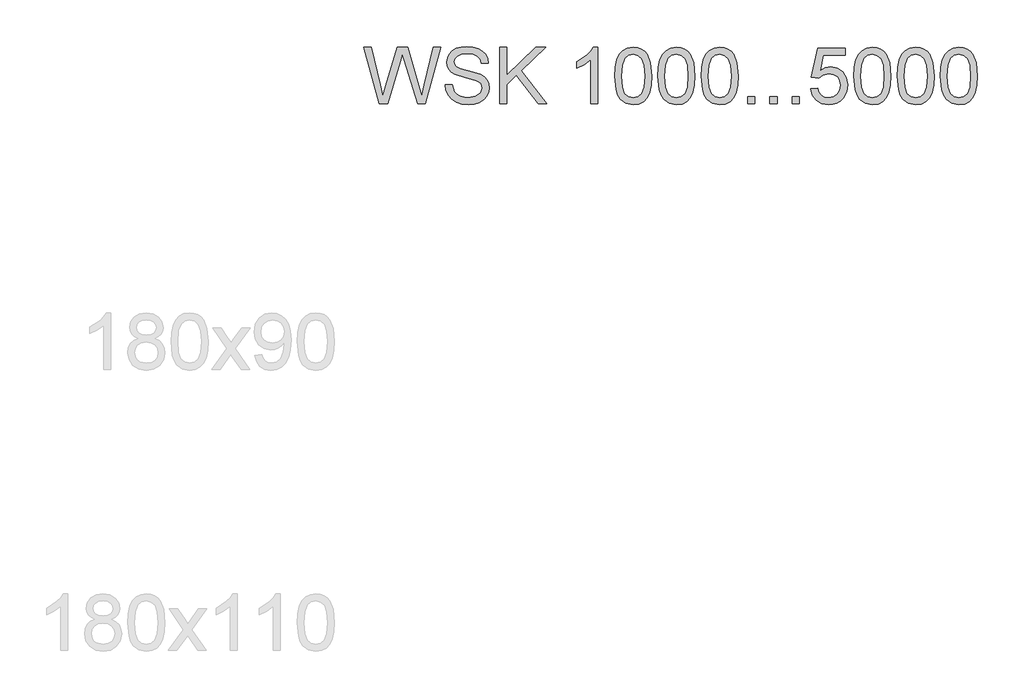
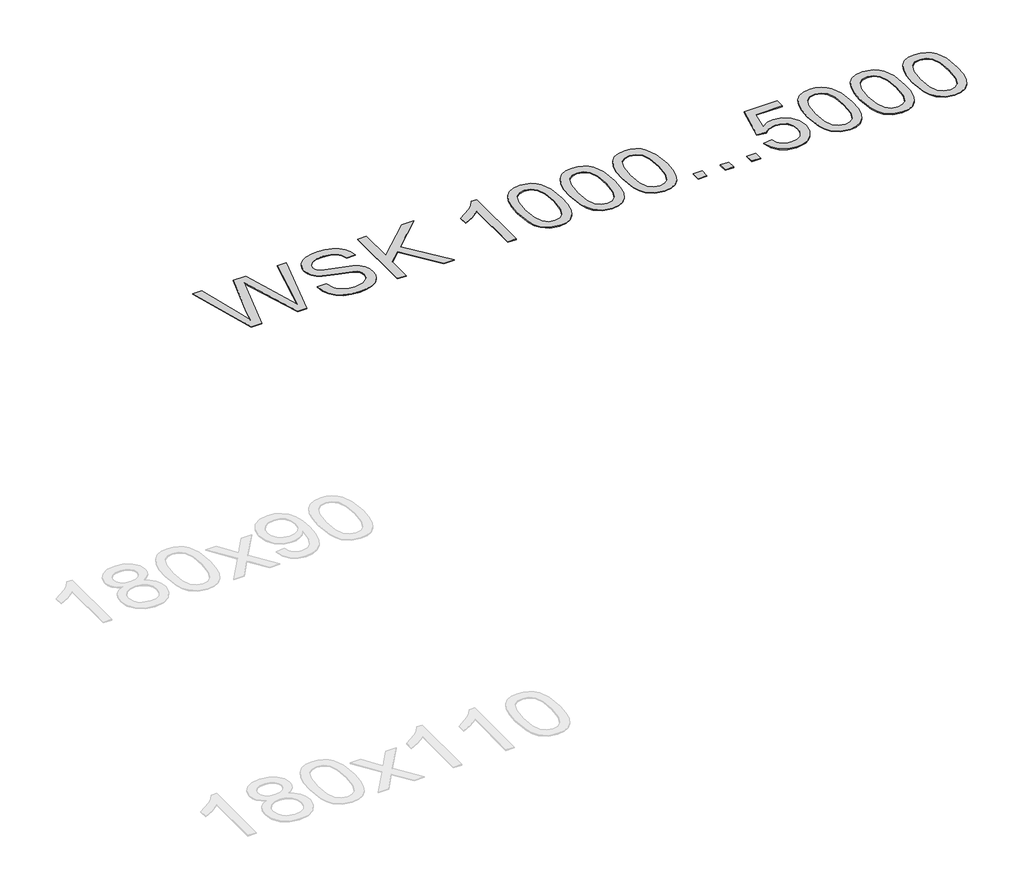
# One storey, part 17 of 17: 1 proxy.
"""IFC4 building model written with IfcOpenShell, lengths in millimetres."""

from ifc_helpers import new_model, si_unit, origin, origin_with_axes, place, context, project, spatial, polyline, outline, extrude, element, save

model = new_model("IFC4")

# Units and contexts
model_context = context("Model", 3, world=origin())
ifc_project = project(units=[si_unit("LENGTHUNIT", "METRE", prefix="MILLI")], contexts=[model_context])

# Site, building, storey
site = spatial("IfcSite", under=ifc_project)
building = spatial("IfcBuilding", under=site)
storey = spatial("IfcBuildingStorey", under=building, Name="Уровень 1", Elevation=0.0)

# Proxy
placement = place(None, origin())
element("IfcBuildingElementProxy", 1, Name="Текст модели 1", ObjectType="Текст модели 1", at=placement, inside=storey, context=model_context, shape_type="SweptSolid", body=[
    extrude(outline(polyline([(35460.7578891, 3491.7575298), (35405.9679973, 3692.6701501), (35431.8668897, 3692.6701501), (35463.6518941, 3560.6250392), (35473.4620807, 3519.8637142), (35483.9589803, 3555.9161497), (35523.7883376, 3692.6701501), (35561.1160974, 3692.6701501), (35590.0561477, 3593.5382151), (35611.5895071, 3519.8637142), (35621.1053881, 3559.4478169), (35653.184698, 3692.6701501), (35679.0835905, 3692.6701501), (35624.2446477, 3491.7575298), (35597.4137876, 3491.7575298), (35549.2457717, 3646.7584771), (35542.5257939, 3668.3899384), (35534.9719503, 3642.3438931), (35491.0713655, 3491.7575298), (35460.7578891, 3491.7575298)])), origin_with_axes(), (0.0, 0.0, 1.0), 2.0),
    extrude(outline(polyline([(35694.779889, 3560.821243), (35719.8939665, 3560.821243), (35727.9873704, 3535.68264), (35736.1175625, 3526.7921584), (35747.7548963, 3519.7901378), (35761.9796667, 3515.2467951), (35777.8721689, 3513.7323476), (35804.1144179, 3518.3186098), (35821.0615152, 3530.9246995), (35826.628796, 3547.7736949), (35822.4594667, 3563.4454679), (35816.107371, 3569.6442795), (35805.3897422, 3574.8498097), (35768.8222719, 3584.4392671), (35729.4588984, 3596.8246276), (35716.9570419, 3605.2736507), (35708.0972172, 3615.5130329), (35702.8181106, 3627.322045), (35701.0584083, 3640.4799577), (35703.2350435, 3655.1891061), (35709.7649489, 3668.9049732), (35720.4764463, 3680.5300442), (35735.1978575, 3688.9668046), (35752.868456, 3694.0987585), (35772.4275154, 3695.8094097), (35793.6175183, 3694.0190507), (35812.1587709, 3688.6479736), (35827.3890855, 3679.806543), (35838.6462745, 3667.6051234), (35845.7709225, 3652.8040045), (35848.6036139, 3636.1634756), (35823.4895363, 3636.1634756), (35818.8787487, 3651.1485355), (35809.2647659, 3661.9642662), (35794.2429177, 3668.5125657), (35773.4085341, 3670.6953322), (35752.0836411, 3668.5370912), (35737.4542004, 3662.0623681), (35728.9929145, 3652.5342244), (35726.1724859, 3641.2157217), (35728.1713114, 3631.5649507), (35734.1677879, 3623.8026406), (35748.3435075, 3616.8619336), (35775.1743676, 3609.7740738), (35819.6145127, 3597.1679841), (35833.9312536, 3588.0567734), (35843.9192498, 3576.811847), (35849.7869676, 3563.5558325), (35851.7428736, 3548.411357), (35849.492662, 3532.9296564), (35842.7420274, 3518.3676607), (35831.7668812, 3505.8351474), (35816.843135, 3496.4418938), (35798.896625, 3490.574176), (35778.8531876, 3488.6182701), (35754.2480135, 3490.7274602), (35733.9961096, 3497.0550305), (35717.8644842, 3507.6255065), (35705.6201451, 3522.4634136), (35697.7597331, 3540.5386823), (35694.779889, 3560.821243)])), origin_with_axes(), (0.0, 0.0, 1.0), 2.0),
    extrude(outline(polyline([(35889.4139899, 3491.7575298), (35889.4139899, 3692.6701501), (35914.5280674, 3692.6701501), (35914.5280674, 3594.32303), (36017.5350261, 3692.6701501), (36052.6554939, 3692.6701501), (35966.1786995, 3610.0683794), (36055.7947536, 3491.7575298), (36025.0888697, 3491.7575298), (35948.373211, 3593.0967567), (35914.5280674, 3560.821243), (35914.5280674, 3491.7575298), (35889.4139899, 3491.7575298)])), origin_with_axes(), (0.0, 0.0, 1.0), 2.0),
    extrude(outline(polyline([(36237.8718157, 3491.7575298), (36212.7577382, 3491.7575298), (36212.7577382, 3648.3281069), (36188.9680358, 3631.3810097), (36162.5295831, 3618.7013436), (36162.5295831, 3642.441995), (36199.3423081, 3665.9373917), (36212.8129205, 3679.5122374), (36221.6850079, 3692.6701501), (36237.8718157, 3692.6701501), (36237.8718157, 3491.7575298)])), origin_with_axes(), (0.0, 0.0, 1.0), 2.0),
    extrude(outline(polyline([(36297.5177499, 3590.5951591), (36299.3632912, 3622.7541769), (36304.8999152, 3648.4016833), (36314.0724396, 3667.9300859), (36326.8256821, 3681.7317921), (36343.2516132, 3689.9355606), (36363.4422034, 3692.6701501), (36378.9177727, 3691.0514693), (36392.7746611, 3686.1954269), (36404.362944, 3678.2920954), (36413.0326963, 3667.531547), (36424.8049202, 3637.8066818), (36429.3666569, 3590.5951591), (36427.5395097, 3558.6200824), (36422.058068, 3533.0338896), (36412.9407258, 3513.4870929), (36400.2058774, 3499.6302044), (36383.7431582, 3491.3712537), (36363.4422034, 3488.6182701), (36337.3471072, 3493.400736), (36317.5305304, 3507.7481338), (36308.7749389, 3522.8772809), (36302.520945, 3541.7281674), (36297.5177499, 3590.5951591)]), holes=[polyline([(36322.6318274, 3590.6442101), (36325.5748834, 3551.1398151), (36334.4040512, 3528.2759491), (36347.5497012, 3517.368248), (36363.4422034, 3513.7323476), (36379.3347056, 3517.3805107), (36392.4803555, 3528.3250001), (36401.3095234, 3551.2011288), (36404.2525794, 3590.6442101), (36401.4076253, 3629.2595568), (36392.872763, 3652.3012324), (36379.7516385, 3663.7423625), (36363.1478978, 3667.5560725), (36347.4270739, 3664.1960836), (36334.7964587, 3654.116117), (36325.6729852, 3629.6397015), (36322.6318274, 3590.6442101)])]), origin_with_axes(), (0.0, 0.0, 1.0), 2.0),
    extrude(outline(polyline([(36451.3414748, 3590.5951591), (36453.1870161, 3622.7541769), (36458.7236401, 3648.4016833), (36467.8961646, 3667.9300859), (36480.6494071, 3681.7317921), (36497.0753381, 3689.9355606), (36517.2659283, 3692.6701501), (36532.7414976, 3691.0514693), (36546.5983861, 3686.1954269), (36558.1866689, 3678.2920954), (36566.8564213, 3667.531547), (36578.6286451, 3637.8066818), (36583.1903818, 3590.5951591), (36581.3632346, 3558.6200824), (36575.8817929, 3533.0338896), (36566.7644508, 3513.4870929), (36554.0296024, 3499.6302044), (36537.5668831, 3491.3712537), (36517.2659283, 3488.6182701), (36491.1708321, 3493.400736), (36471.3542553, 3507.7481338), (36462.5986638, 3522.8772809), (36456.3446699, 3541.7281674), (36451.3414748, 3590.5951591)]), holes=[polyline([(36476.4555523, 3590.6442101), (36479.3986083, 3551.1398151), (36488.2277762, 3528.2759491), (36501.3734261, 3517.368248), (36517.2659283, 3513.7323476), (36533.1584305, 3517.3805107), (36546.3040805, 3528.3250001), (36555.1332483, 3551.2011288), (36558.0763043, 3590.6442101), (36555.2313502, 3629.2595568), (36546.6964879, 3652.3012324), (36533.5753634, 3663.7423625), (36516.9716227, 3667.5560725), (36501.2507988, 3664.1960836), (36488.6201836, 3654.116117), (36479.4967101, 3629.6397015), (36476.4555523, 3590.6442101)])]), origin_with_axes(), (0.0, 0.0, 1.0), 2.0),
    extrude(outline(polyline([(36605.1651997, 3590.5951591), (36607.010741, 3622.7541769), (36612.5473651, 3648.4016833), (36621.7198895, 3667.9300859), (36634.473132, 3681.7317921), (36650.8990631, 3689.9355606), (36671.0896532, 3692.6701501), (36686.5652225, 3691.0514693), (36700.422111, 3686.1954269), (36712.0103938, 3678.2920954), (36720.6801462, 3667.531547), (36732.45237, 3637.8066818), (36737.0141068, 3590.5951591), (36735.1869595, 3558.6200824), (36729.7055178, 3533.0338896), (36720.5881757, 3513.4870929), (36707.8533273, 3499.6302044), (36691.390608, 3491.3712537), (36671.0896532, 3488.6182701), (36644.994557, 3493.400736), (36625.1779802, 3507.7481338), (36616.4223887, 3522.8772809), (36610.1683948, 3541.7281674), (36605.1651997, 3590.5951591)]), holes=[polyline([(36630.2792772, 3590.6442101), (36633.2223332, 3551.1398151), (36642.0515011, 3528.2759491), (36655.197151, 3517.368248), (36671.0896532, 3513.7323476), (36686.9821554, 3517.3805107), (36700.1278054, 3528.3250001), (36708.9569733, 3551.2011288), (36711.9000292, 3590.6442101), (36709.0550751, 3629.2595568), (36700.5202128, 3652.3012324), (36687.3990883, 3663.7423625), (36670.7953476, 3667.5560725), (36655.0745237, 3664.1960836), (36642.4439085, 3654.116117), (36633.3204351, 3629.6397015), (36630.2792772, 3590.6442101)])]), origin_with_axes(), (0.0, 0.0, 1.0), 2.0),
    extrude(outline(polyline([(36771.5459634, 3491.7575298), (36771.5459634, 3516.8716073), (36796.6600409, 3516.8716073), (36796.6600409, 3491.7575298), (36771.5459634, 3491.7575298)])), origin_with_axes(), (0.0, 0.0, 1.0), 2.0),
    extrude(outline(polyline([(36850.0274557, 3491.7575298), (36850.0274557, 3516.8716073), (36875.1415332, 3516.8716073), (36875.1415332, 3491.7575298), (36850.0274557, 3491.7575298)])), origin_with_axes(), (0.0, 0.0, 1.0), 2.0),
    extrude(outline(polyline([(36928.508948, 3491.7575298), (36928.508948, 3516.8716073), (36953.6230255, 3516.8716073), (36953.6230255, 3491.7575298), (36928.508948, 3491.7575298)])), origin_with_axes(), (0.0, 0.0, 1.0), 2.0),
    extrude(outline(polyline([(36994.4334015, 3545.1249445), (37019.5474791, 3548.2642042), (37024.1582667, 3533.1871738), (37032.2026197, 3522.3898372), (37043.6437497, 3515.89672), (37058.4448687, 3513.7323476), (37076.446561, 3516.7428486), (37089.9355675, 3525.7743516), (37098.3600652, 3539.7845242), (37101.1682311, 3557.7310342), (37098.5378748, 3574.6290805), (37090.646806, 3587.5540013), (37077.433711, 3595.7577698), (37058.8372761, 3598.4923593), (37036.7888819, 3594.1268263), (37022.6867387, 3582.7960608), (36997.5726612, 3585.9353205), (37019.5474791, 3689.5308904), (37116.8645295, 3689.5308904), (37116.8645295, 3664.4168128), (37039.8545652, 3664.4168128), (37029.1124109, 3609.0873607), (37047.0527896, 3619.9766678), (37065.8515595, 3623.6064368), (37089.3162994, 3619.1060137), (37108.7956511, 3605.6047445), (37121.9106442, 3585.0278783), (37126.2823086, 3559.3006641), (37122.3459712, 3534.1865865), (37110.5369592, 3512.702278), (37100.1013733, 3502.1655245), (37087.9244792, 3494.639272), (37074.0062771, 3490.1235206), (37058.3467668, 3488.6182701), (37033.680279, 3492.4871624), (37014.0292491, 3504.0938393), (37000.5586367, 3522.0894003), (36994.4334015, 3545.1249445)])), origin_with_axes(), (0.0, 0.0, 1.0), 2.0),
    extrude(outline(polyline([(37148.2571264, 3590.5951591), (37150.1026678, 3622.7541769), (37155.6392918, 3648.4016833), (37164.8118162, 3667.9300859), (37177.5650587, 3681.7317921), (37193.9909898, 3689.9355606), (37214.18158, 3692.6701501), (37229.6571492, 3691.0514693), (37243.5140377, 3686.1954269), (37255.1023206, 3678.2920954), (37263.7720729, 3667.531547), (37275.5442968, 3637.8066818), (37280.1060335, 3590.5951591), (37278.2788863, 3558.6200824), (37272.7974445, 3533.0338896), (37263.6801024, 3513.4870929), (37250.945254, 3499.6302044), (37234.4825347, 3491.3712537), (37214.18158, 3488.6182701), (37188.0864838, 3493.400736), (37168.269907, 3507.7481338), (37159.5143155, 3522.8772809), (37153.2603216, 3541.7281674), (37148.2571264, 3590.5951591)]), holes=[polyline([(37173.371204, 3590.6442101), (37176.3142599, 3551.1398151), (37185.1434278, 3528.2759491), (37198.2890778, 3517.368248), (37214.18158, 3513.7323476), (37230.0740822, 3517.3805107), (37243.2197321, 3528.3250001), (37252.0489, 3551.2011288), (37254.991956, 3590.6442101), (37252.1470019, 3629.2595568), (37243.6121396, 3652.3012324), (37230.4910151, 3663.7423625), (37213.8872744, 3667.5560725), (37198.1664504, 3664.1960836), (37185.5358353, 3654.116117), (37176.4123618, 3629.6397015), (37173.371204, 3590.6442101)])]), origin_with_axes(), (0.0, 0.0, 1.0), 2.0),
    extrude(outline(polyline([(37302.0808514, 3590.5951591), (37303.9263927, 3622.7541769), (37309.4630167, 3648.4016833), (37318.6355411, 3667.9300859), (37331.3887836, 3681.7317921), (37347.8147147, 3689.9355606), (37368.0053049, 3692.6701501), (37383.4808742, 3691.0514693), (37397.3377626, 3686.1954269), (37408.9260455, 3678.2920954), (37417.5957978, 3667.531547), (37429.3680217, 3637.8066818), (37433.9297584, 3590.5951591), (37432.1026112, 3558.6200824), (37426.6211695, 3533.0338896), (37417.5038273, 3513.4870929), (37404.7689789, 3499.6302044), (37388.3062597, 3491.3712537), (37368.0053049, 3488.6182701), (37341.9102087, 3493.400736), (37322.0936319, 3507.7481338), (37313.3380404, 3522.8772809), (37307.0840465, 3541.7281674), (37302.0808514, 3590.5951591)]), holes=[polyline([(37327.1949289, 3590.6442101), (37330.1379848, 3551.1398151), (37338.9671527, 3528.2759491), (37352.1128027, 3517.368248), (37368.0053049, 3513.7323476), (37383.8978071, 3517.3805107), (37397.043457, 3528.3250001), (37405.8726249, 3551.2011288), (37408.8156809, 3590.6442101), (37405.9707268, 3629.2595568), (37397.4358645, 3652.3012324), (37384.31474, 3663.7423625), (37367.7109993, 3667.5560725), (37351.9901754, 3664.1960836), (37339.3595602, 3654.116117), (37330.2360867, 3629.6397015), (37327.1949289, 3590.6442101)])]), origin_with_axes(), (0.0, 0.0, 1.0), 2.0),
    extrude(outline(polyline([(37455.9045763, 3590.5951591), (37457.7501176, 3622.7541769), (37463.2867416, 3648.4016833), (37472.4592661, 3667.9300859), (37485.2125085, 3681.7317921), (37501.6384396, 3689.9355606), (37521.8290298, 3692.6701501), (37537.3045991, 3691.0514693), (37551.1614876, 3686.1954269), (37562.7497704, 3678.2920954), (37571.4195228, 3667.531547), (37583.1917466, 3637.8066818), (37587.7534833, 3590.5951591), (37585.9263361, 3558.6200824), (37580.4448944, 3533.0338896), (37571.3275523, 3513.4870929), (37558.5927039, 3499.6302044), (37542.1299846, 3491.3712537), (37521.8290298, 3488.6182701), (37495.7339336, 3493.400736), (37475.9173568, 3507.7481338), (37467.1617653, 3522.8772809), (37460.9077714, 3541.7281674), (37455.9045763, 3590.5951591)]), holes=[polyline([(37481.0186538, 3590.6442101), (37483.9617098, 3551.1398151), (37492.7908777, 3528.2759491), (37505.9365276, 3517.368248), (37521.8290298, 3513.7323476), (37537.721532, 3517.3805107), (37550.867182, 3528.3250001), (37559.6963498, 3551.2011288), (37562.6394058, 3590.6442101), (37559.7944517, 3629.2595568), (37551.2595894, 3652.3012324), (37538.1384649, 3663.7423625), (37521.5347242, 3667.5560725), (37505.8139003, 3664.1960836), (37493.1832851, 3654.116117), (37484.0598116, 3629.6397015), (37481.0186538, 3590.6442101)])]), origin_with_axes(), (0.0, 0.0, 1.0), 2.0),
])

save(model, "model.ifc")
